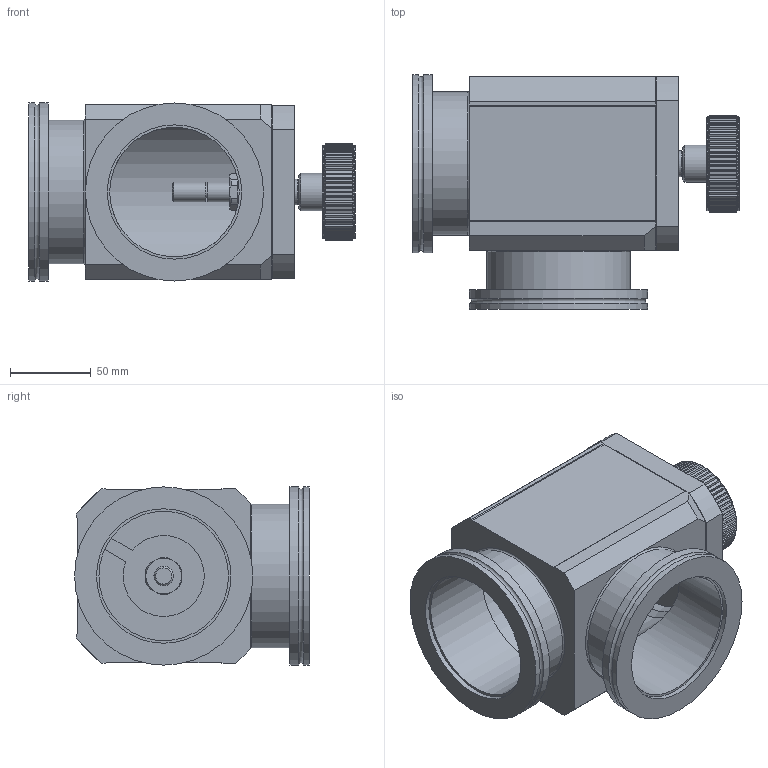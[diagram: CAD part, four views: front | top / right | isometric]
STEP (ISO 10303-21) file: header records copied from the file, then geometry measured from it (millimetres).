
FILE_DESCRIPTION(/* description */ (''),/* implementation_level */ '2;1');
FILE_NAME(/* name */ '1243635293_203.stp',/* time_stamp */ '2019-04-05T13:20:59+02:00',/* author */ (''),/* organization */ (''),/* preprocessor_version */ 'ST-DEVELOPER v16',/* originating_system */ 'SIEMENS PLM Software NX 11.0',/* authorisation */ '');
FILE_SCHEMA (('AP203_CONFIGURATION_CONTROLLED_3D_DESIGN_OF_MECHANICAL_PARTS_AND_ASSEMBLIES_MIM_LF { 1 0 10303 403 2 1 2}'));
Length unit declared in the file: millimetre
Products named in the file (8): 784359; 784360; 254941.4; 457154; 900594; 224794.1; 245913_MODEL; 976274
Assembly tree (10 placements, depth 3):
  976274
    224794.1  x4
    245913_MODEL
      784360
      784359
    900594
    457154
    254941.4
Bounding box: 201.65 x 145.06 x 110.11 mm (x, y, z)
Volume: 697546.3 mm3; surface area: 203598.3 mm2
Topology: 10 solids, 10 shells, 619 faces, 1376 edges, 814 vertices
Faces by surface type: plane 271, cone 167, cylinder 154, torus 27
Full cylindrical faces by diameter (mm): 4.2 x4, 5 x8, 5.5 x4, 7.955 x1, 8 x1, 8.5 x4, 9.5 x4, 10 x1, 11.5 x1, 11.945 x1, 12 x3, 12.04 x1, 14 x4, 15.979 x1, 16 x1, 16.05 x1, 16.2 x1, 19 x1, 23 x1, 50 x1, 58 x2, 80 x2, 83 x1, 83.11 x1, 88.5 x1, 88.61 x1, 95 x1, 100 x1, 102.7 x1, 104.8 x1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
Entity records: 16650 total; most frequent: CARTESIAN_POINT 3659, DIRECTION 2494, ORIENTED_EDGE 2326, EDGE_CURVE 1163, AXIS2_PLACEMENT_3D 1055, VERTEX_POINT 732, EDGE_LOOP 714, ADVANCED_FACE 574
